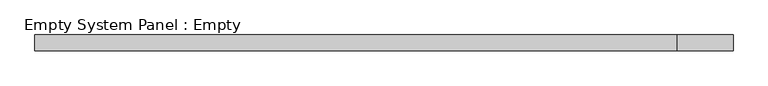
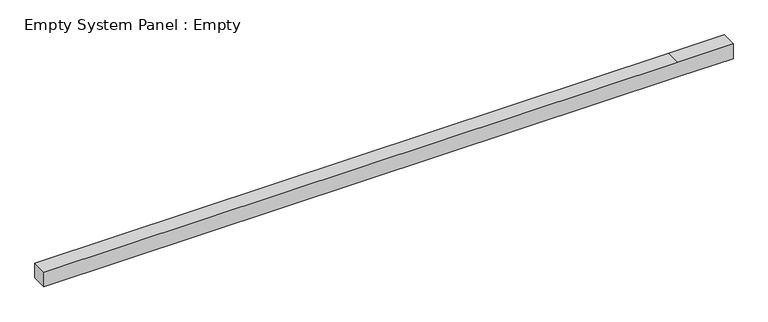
"""IFC4 building model written with IfcOpenShell, lengths in millimetres: plate geometry, Empty System Panel : Empty."""

from ifc_helpers import new_model, si_unit, frame, origin, place, context, project, spatial, polyline, outline, extrude, source, transform, mapped, element, save


def empty_system_panel_empty_b9324def(model_context):
    return source(origin(), model_context, "Body", "SweptSolid", [
        extrude(outline(polyline([(0.0, -2201.25), (0.0, 1848.75), (0.0, 2201.25), (100.0, 2201.25), (100.0, 1848.75), (100.0, -2201.25), (0.0, -2201.25)])), frame((0.0, -50.0, 0.0), z_axis=(0.0, 1.0, 0.0), x_axis=(0.0, 0.0, 1.0)), (0.0, 0.0, 1.0), 100.0),
    ])


if __name__ == "__main__":
    model = new_model("IFC4")
    model_context = context("Model", 3, world=origin())
    ifc_project = project(units=[si_unit("LENGTHUNIT", "METRE", prefix="MILLI")], contexts=[model_context])
    site = spatial("IfcSite", under=ifc_project)
    building = spatial("IfcBuilding", under=site)
    placement = place(None, origin())
    empty_system_panel_empty_shape = empty_system_panel_empty_b9324def(model_context)
    element("IfcPlate", 1, ObjectType="Empty System Panel : Empty", at=placement, inside=building, context=model_context, shape_type="MappedRepresentation", body=[
        mapped(empty_system_panel_empty_shape, transform((0.0, 0.0, 0.0), x_axis=(1.0, 0.0, 0.0), y_axis=(0.0, 1.0, 0.0), z_axis=(0.0, 0.0, 1.0))),
    ])
    save(model, "model.ifc")
